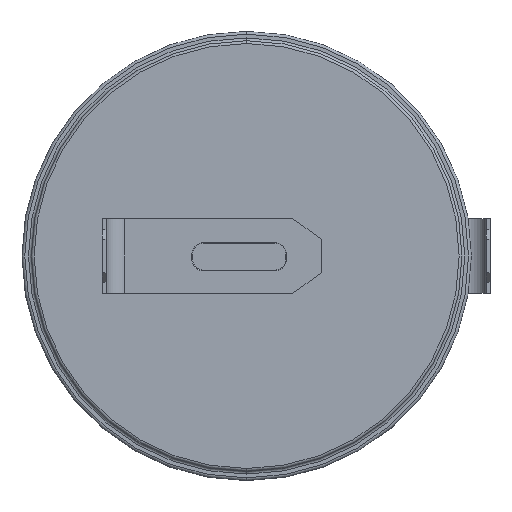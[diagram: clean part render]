
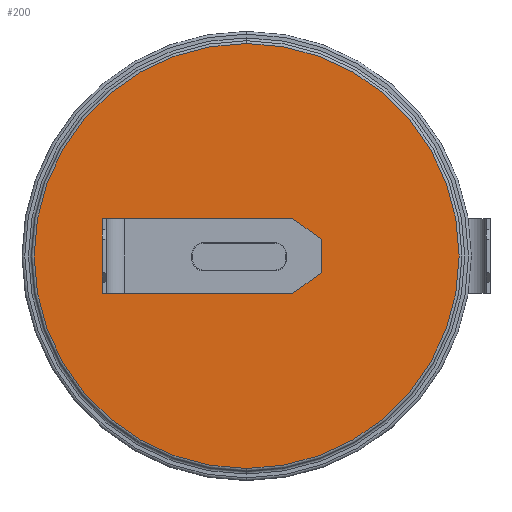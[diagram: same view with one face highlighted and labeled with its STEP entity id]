
A CAD part, front view. The second image highlights one B-rep face of the part: STEP entity #200.
In plain terms, the highlighted planar face has unit normal (0, -1, 0).
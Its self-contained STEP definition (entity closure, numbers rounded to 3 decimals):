
#23 = LINE ( 'NONE', #1516, #3078 ) ;
#43 = CARTESIAN_POINT ( 'NONE',  ( -1.907, 0., -0.139 ) ) ;
#168 = DIRECTION ( 'NONE',  ( 0., 0., -1. ) ) ;
#172 = AXIS2_PLACEMENT_3D ( 'NONE', #43, #950, #2645 ) ;
#200 = ADVANCED_FACE ( 'NONE', ( #3733, #2827 ), #3372, .T. ) ;
#333 = LINE ( 'NONE', #2106, #2387 ) ;
#403 = EDGE_CURVE ( 'NONE', #2730, #3284, #333, .T. ) ;
#412 = CIRCLE ( 'NONE', #540, 11.35 ) ;
#444 = CARTESIAN_POINT ( 'NONE',  ( 0., 0., 0. ) ) ;
#450 = EDGE_LOOP ( 'NONE', ( #1088, #2085, #1907, #1957, #1879, #2502, #3327, #1513 ) ) ;
#465 = DIRECTION ( 'NONE',  ( 0., 0., -1. ) ) ;
#510 = CARTESIAN_POINT ( 'NONE',  ( -1.907, 0., 0.939 ) ) ;
#540 = AXIS2_PLACEMENT_3D ( 'NONE', #1420, #2609, #3707 ) ;
#560 = CARTESIAN_POINT ( 'NONE',  ( 2.707, 0., -0.139 ) ) ;
#581 = DIRECTION ( 'NONE',  ( 0., 0., -1. ) ) ;
#647 = CARTESIAN_POINT ( 'NONE',  ( 0., 0., -11.35 ) ) ;
#781 = LINE ( 'NONE', #2264, #847 ) ;
#801 = DIRECTION ( 'NONE',  ( 0., -1., 0. ) ) ;
#847 = VECTOR ( 'NONE', #2500, 1000. ) ;
#855 = EDGE_CURVE ( 'NONE', #3354, #1531, #2887, .T. ) ;
#879 = CARTESIAN_POINT ( 'NONE',  ( -1.907, 0., 0.139 ) ) ;
#881 = CARTESIAN_POINT ( 'NONE',  ( -2.707, 0., -0.139 ) ) ;
#924 = AXIS2_PLACEMENT_3D ( 'NONE', #879, #1759, #1130 ) ;
#950 = DIRECTION ( 'NONE',  ( 0., -1., 0. ) ) ;
#1021 = VERTEX_POINT ( 'NONE', #881 ) ;
#1088 = ORIENTED_EDGE ( 'NONE', *, *, #403, .F. ) ;
#1102 = DIRECTION ( 'NONE',  ( 0., 0., -1. ) ) ;
#1107 = DIRECTION ( 'NONE',  ( 0., -1., 0. ) ) ;
#1130 = DIRECTION ( 'NONE',  ( 0., 0., 1. ) ) ;
#1233 = VERTEX_POINT ( 'NONE', #1605 ) ;
#1240 = CIRCLE ( 'NONE', #924, 0.8 ) ;
#1327 = VERTEX_POINT ( 'NONE', #3809 ) ;
#1420 = CARTESIAN_POINT ( 'NONE',  ( 0., 0., 0. ) ) ;
#1513 = ORIENTED_EDGE ( 'NONE', *, *, #3478, .F. ) ;
#1516 = CARTESIAN_POINT ( 'NONE',  ( 1.907, 0., 0.939 ) ) ;
#1531 = VERTEX_POINT ( 'NONE', #3159 ) ;
#1573 = EDGE_LOOP ( 'NONE', ( #2858, #2177 ) ) ;
#1605 = CARTESIAN_POINT ( 'NONE',  ( -1.907, 0., -0.939 ) ) ;
#1624 = CARTESIAN_POINT ( 'NONE',  ( -2.707, 0., 0.139 ) ) ;
#1717 = EDGE_CURVE ( 'NONE', #1327, #2730, #2944, .T. ) ;
#1759 = DIRECTION ( 'NONE',  ( 0., -1., 0. ) ) ;
#1871 = DIRECTION ( 'NONE',  ( 0., 0., 1. ) ) ;
#1879 = ORIENTED_EDGE ( 'NONE', *, *, #2057, .F. ) ;
#1907 = ORIENTED_EDGE ( 'NONE', *, *, #2262, .F. ) ;
#1957 = ORIENTED_EDGE ( 'NONE', *, *, #2304, .F. ) ;
#2006 = DIRECTION ( 'NONE',  ( 0., 0., 1. ) ) ;
#2057 = EDGE_CURVE ( 'NONE', #3423, #1021, #3765, .T. ) ;
#2085 = ORIENTED_EDGE ( 'NONE', *, *, #1717, .F. ) ;
#2106 = CARTESIAN_POINT ( 'NONE',  ( 2.707, 0., -0.139 ) ) ;
#2177 = ORIENTED_EDGE ( 'NONE', *, *, #2549, .T. ) ;
#2262 = EDGE_CURVE ( 'NONE', #1233, #1327, #781, .T. ) ;
#2264 = CARTESIAN_POINT ( 'NONE',  ( 1.907, 0., -0.939 ) ) ;
#2304 = EDGE_CURVE ( 'NONE', #1021, #1233, #2594, .T. ) ;
#2306 = CARTESIAN_POINT ( 'NONE',  ( 0., 0., 0. ) ) ;
#2328 = EDGE_CURVE ( 'NONE', #2875, #3433, #23, .T. ) ;
#2359 = DIRECTION ( 'NONE',  ( -1., 0., 0. ) ) ;
#2387 = VECTOR ( 'NONE', #1871, 1000. ) ;
#2500 = DIRECTION ( 'NONE',  ( 1., 0., 0. ) ) ;
#2502 = ORIENTED_EDGE ( 'NONE', *, *, #3530, .F. ) ;
#2549 = EDGE_CURVE ( 'NONE', #1531, #3354, #412, .T. ) ;
#2594 = CIRCLE ( 'NONE', #172, 0.8 ) ;
#2609 = DIRECTION ( 'NONE',  ( 0., -1., 0. ) ) ;
#2631 = DIRECTION ( 'NONE',  ( 0., -1., 0. ) ) ;
#2645 = DIRECTION ( 'NONE',  ( 0., 0., 1. ) ) ;
#2650 = AXIS2_PLACEMENT_3D ( 'NONE', #2306, #3439, #168 ) ;
#2730 = VERTEX_POINT ( 'NONE', #560 ) ;
#2758 = AXIS2_PLACEMENT_3D ( 'NONE', #3751, #1107, #2006 ) ;
#2827 = FACE_BOUND ( 'NONE', #450, .T. ) ;
#2858 = ORIENTED_EDGE ( 'NONE', *, *, #855, .T. ) ;
#2860 = CARTESIAN_POINT ( 'NONE',  ( -2.707, 0., -0.139 ) ) ;
#2875 = VERTEX_POINT ( 'NONE', #3384 ) ;
#2887 = CIRCLE ( 'NONE', #2650, 11.35 ) ;
#2944 = CIRCLE ( 'NONE', #2758, 0.8 ) ;
#2999 = AXIS2_PLACEMENT_3D ( 'NONE', #444, #801, #465 ) ;
#3078 = VECTOR ( 'NONE', #2359, 1000. ) ;
#3151 = CIRCLE ( 'NONE', #3758, 0.8 ) ;
#3159 = CARTESIAN_POINT ( 'NONE',  ( 0., 0., 11.35 ) ) ;
#3230 = CARTESIAN_POINT ( 'NONE',  ( 1.907, 0., 0.139 ) ) ;
#3284 = VERTEX_POINT ( 'NONE', #3620 ) ;
#3327 = ORIENTED_EDGE ( 'NONE', *, *, #2328, .F. ) ;
#3354 = VERTEX_POINT ( 'NONE', #647 ) ;
#3372 = PLANE ( 'NONE',  #2999 ) ;
#3384 = CARTESIAN_POINT ( 'NONE',  ( 1.907, 0., 0.939 ) ) ;
#3423 = VERTEX_POINT ( 'NONE', #1624 ) ;
#3433 = VERTEX_POINT ( 'NONE', #510 ) ;
#3439 = DIRECTION ( 'NONE',  ( 0., -1., 0. ) ) ;
#3450 = VECTOR ( 'NONE', #1102, 1000. ) ;
#3478 = EDGE_CURVE ( 'NONE', #3284, #2875, #3151, .T. ) ;
#3530 = EDGE_CURVE ( 'NONE', #3433, #3423, #1240, .T. ) ;
#3620 = CARTESIAN_POINT ( 'NONE',  ( 2.707, 0., 0.139 ) ) ;
#3707 = DIRECTION ( 'NONE',  ( 0., 0., -1. ) ) ;
#3733 = FACE_OUTER_BOUND ( 'NONE', #1573, .T. ) ;
#3751 = CARTESIAN_POINT ( 'NONE',  ( 1.907, 0., -0.139 ) ) ;
#3758 = AXIS2_PLACEMENT_3D ( 'NONE', #3230, #2631, #581 ) ;
#3765 = LINE ( 'NONE', #2860, #3450 ) ;
#3809 = CARTESIAN_POINT ( 'NONE',  ( 1.907, 0., -0.939 ) ) ;
